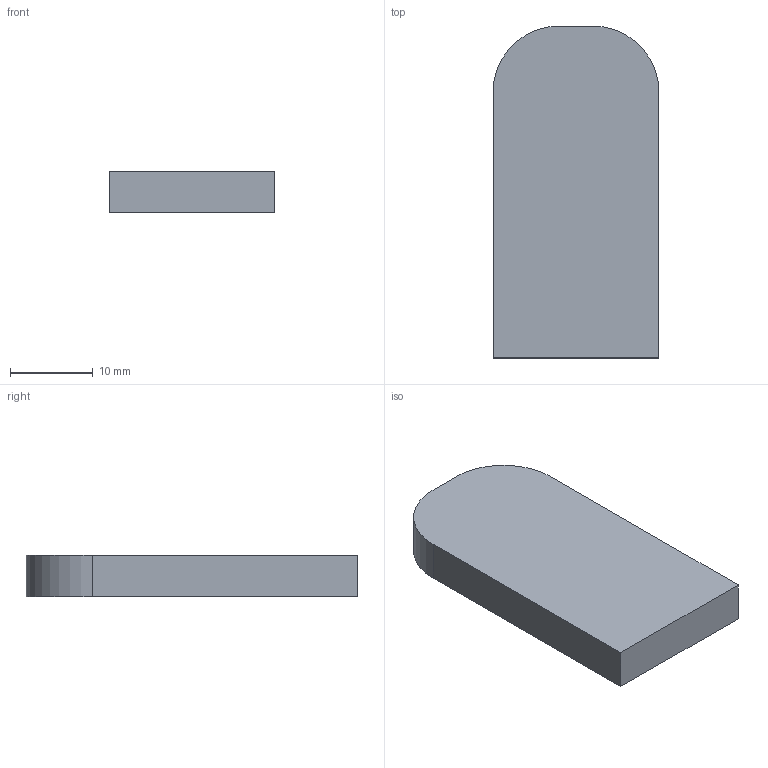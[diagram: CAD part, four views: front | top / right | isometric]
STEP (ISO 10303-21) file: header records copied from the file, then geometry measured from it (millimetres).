
FILE_DESCRIPTION (( 'STEP AP214' ), '1' );
FILE_NAME ('Magnet_test.STEP', '2025-12-21T18:27:56', ( '' ), ( '' ), 'SwSTEP 2.0', 'SolidWorks 2025', '' );
FILE_SCHEMA (( 'AUTOMOTIVE_DESIGN' ));
Length unit declared in the file: millimetre
Products named in the file (1): Magnet_test
Bounding box: 20 x 40 x 5 mm (x, y, z)
Volume: 3311.1 mm3; surface area: 2327 mm2
Topology: 1 solids, 1 shells, 17 faces, 36 edges, 24 vertices
Faces by surface type: plane 9, cylinder 8
Entity records: 489 total; most frequent: DIRECTION 88, CARTESIAN_POINT 78, ORIENTED_EDGE 72, EDGE_CURVE 36, AXIS2_PLACEMENT_3D 34, VERTEX_POINT 24, VECTOR 20, LINE 20
